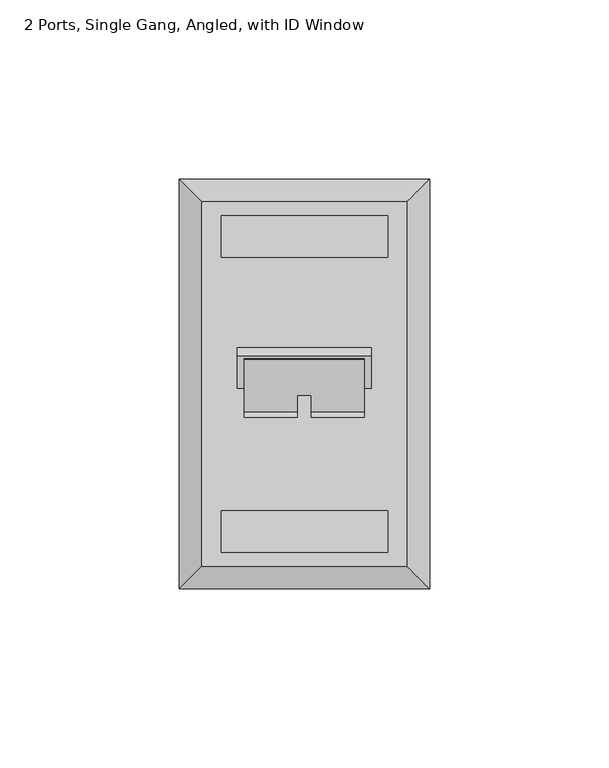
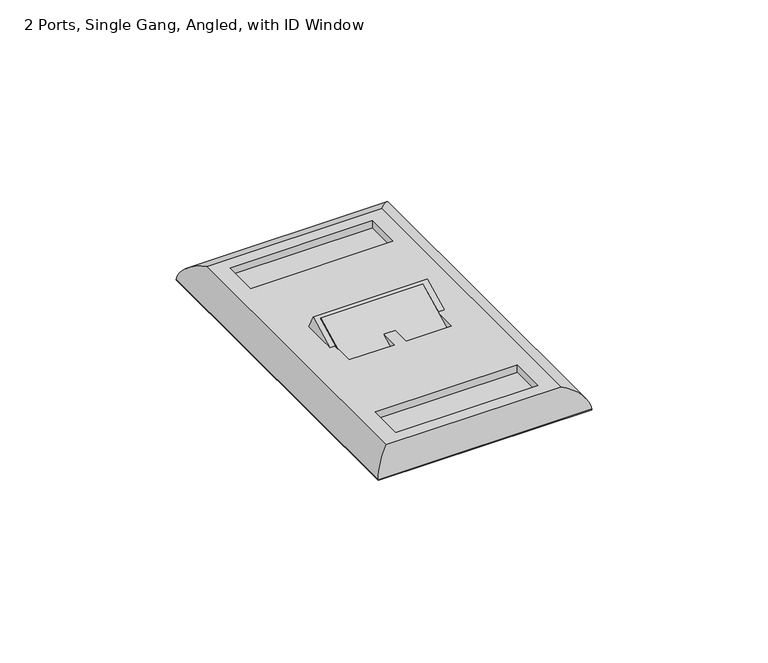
"""IFC4 building model written with IfcOpenShell, lengths in millimetres: electric appliance geometry, Data_Device-Work_Area-Leviton-QuickPort-Wallplate : 2 Ports, Single Gang, Angled, with ID Window."""

from ifc_helpers import new_model, si_unit, frame, origin, origin_with_axes, place, context, project, spatial, polyline, ellipse_curve, outline, extrude, faceted_brep, source, transform, mapped, element, save
from ifc_brep_helpers import plane_surface, cylinder_surface, advanced_brep


def electric_appliance_2_ports_single_gang_angled_with_id_window_8e567249(model_context):
    return source(origin(), model_context, "Body", "SolidModel", [
        extrude(outline(polyline([(0.0, -16.5099999), (0.0, 0.0), (33.401, 0.0), (33.401, -16.5099999), (0.0, -16.5099999)])), frame((-6.3246, 3.3027569, -2.12579), z_axis=(0.0, -0.45585538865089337, 0.8900538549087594), x_axis=(-1.0, 0.0, 0.0)), (0.0, 0.0, 1.0), 6.35),
        advanced_brep(
        [(5.5499, -42.6085, 6.35), (5.5499, 58.9915, 6.35), (-51.6001, 58.9915, 6.35), (-51.6001, -42.6085, 6.35), (-46.2661, 55.1815, 6.35), (0.2159, 55.1815, 6.35), (0.2159, 43.4975, 6.35), (-46.2661, 43.4975, 6.35), (0.2159, -27.1145, 6.35), (0.2159, -38.7985, 6.35), (-46.2661, -38.7985, 6.35), (-46.2661, -27.1145, 6.35), (-6.3246, 17.5111842, 6.35), (-6.3246, -1.0382552, 6.35), (-21.0566, -1.0382552, 6.35), (-21.0566, 17.5111842, 6.35), (-24.9936, 17.5111842, 6.35), (-24.9936, -1.0382552, 6.35), (-39.7256, -1.0382552, 6.35), (-39.7256, 17.5111842, 6.35), (11.8999, 65.3415, 0.0), (11.8999, -48.9585, 0.0), (-57.9501, -48.9585, 0.0), (-57.9501, 65.3415, 0.0), (-6.3246, 2.2139994, 0.0), (-6.3246, 20.7634387, 0.0), (-21.0566, 20.7634387, 0.0), (-21.0566, 2.2139994, 0.0), (-24.9936, 2.2139994, 0.0), (-24.9936, 20.7634387, 0.0), (-39.7256, 20.7634387, 0.0), (-39.7256, 2.2139994, 0.0), (-57.9501, 65.3415, 0.254), (11.8999, 65.3415, 0.254), (-57.9501, -48.9585, 0.254), (11.8999, -48.9585, 0.254), (0.2159, 55.1815, 3.81), (-46.2661, 55.1815, 3.81), (-46.2661, 43.4975, 3.81), (0.2159, 43.4975, 3.81), (0.2159, -38.7985, 3.81), (0.2159, -27.1145, 3.81), (-46.2661, -27.1145, 3.81), (-46.2661, -38.7985, 3.81)],
        [
            (0, 1),
            (1, 2),
            (2, 3),
            (3, 0),
            (4, 5),
            (5, 6),
            (6, 7),
            (7, 4),
            (8, 9),
            (9, 10),
            (10, 11),
            (11, 8),
            (12, 13),
            (13, 14),
            (14, 15),
            (15, 12),
            (16, 17),
            (17, 18),
            (18, 19),
            (19, 16),
            (20, 21),
            (21, 22),
            (22, 23),
            (23, 20),
            (24, 25),
            (25, 26),
            (26, 27),
            (27, 24),
            (28, 29),
            (29, 30),
            (30, 31),
            (31, 28),
            (23, 32),
            (32, 33),
            (33, 20),
            (22, 34),
            (34, 32),
            (21, 35),
            (35, 34),
            (33, 35),
            (36, 37),
            (37, 38),
            (38, 39),
            (39, 36),
            (40, 41),
            (41, 42),
            (42, 43),
            (43, 40),
            (36, 5),
            (4, 37),
            (7, 38),
            (6, 39),
            (40, 9),
            (8, 41),
            (11, 42),
            (10, 43),
            (12, 25),
            (24, 13),
            (27, 14),
            (26, 15),
            (16, 29),
            (28, 17),
            (31, 18),
            (30, 19),
            (0, 35, ellipse_curve(frame((5.5499, -42.6085, -0.0052917), z_axis=(0.7071067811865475, 0.7071067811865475, 0.0), x_axis=(0.7071067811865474, -0.7071067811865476, 0.0)), 8.9877397, 6.3552917)),
            (33, 1, ellipse_curve(frame((5.5499, 58.9915, -0.0052917), z_axis=(0.7071067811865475, -0.7071067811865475, 0.0), x_axis=(-0.7071067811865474, -0.7071067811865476, 0.0)), 8.9877397, 6.3552917)),
            (3, 34, ellipse_curve(frame((-51.6001, -42.6085, -0.0052917), z_axis=(0.7071067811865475, -0.7071067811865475, 0.0), x_axis=(-0.7071067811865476, -0.7071067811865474, 0.0)), 8.9877397, 6.3552917)),
            (2, 32, ellipse_curve(frame((-51.6001, 58.9915, -0.0052917), z_axis=(-0.7071067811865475, -0.7071067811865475, 0.0), x_axis=(-0.7071067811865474, 0.7071067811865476, 0.0)), 8.9877397, 6.3552917)),
        ],
        [
            plane_surface(frame((-57.9501, 65.3415, 6.35), z_axis=(0.0, 0.0, 1.0), x_axis=(-1.0, 0.0, 0.0))),
            plane_surface(frame((-57.9501, 65.3415, 0.0), z_axis=(0.0, 0.0, -1.0), x_axis=(1.0, 0.0, 0.0))),
            plane_surface(frame((11.8999, 65.3415, 6.35), z_axis=(0.0, 1.0, 0.0), x_axis=(0.0, 0.0, -1.0))),
            plane_surface(frame((-57.9501, 65.3415, 6.35), z_axis=(-1.0, 0.0, 0.0), x_axis=(0.0, 0.0, -1.0))),
            plane_surface(frame((-57.9501, -48.9585, 6.35), z_axis=(0.0, -1.0, 0.0), x_axis=(0.0, 0.0, -1.0))),
            plane_surface(frame((11.8999, -48.9585, 6.35), z_axis=(1.0, 0.0, 0.0), x_axis=(0.0, 0.0, -1.0))),
            plane_surface(frame((-46.2661, 55.1815, 3.81), z_axis=(0.0, 0.0, 1.0), x_axis=(1.0, 0.0, 0.0))),
            plane_surface(frame((0.2159, 55.1815, 6.35), z_axis=(0.0, -1.0, 0.0), x_axis=(0.0, 0.0, -1.0))),
            plane_surface(frame((-46.2661, 55.1815, 6.35), z_axis=(1.0, 0.0, 0.0), x_axis=(0.0, 0.0, -1.0))),
            plane_surface(frame((-46.2661, 43.4975, 6.35), z_axis=(0.0, 1.0, 0.0), x_axis=(0.0, 0.0, -1.0))),
            plane_surface(frame((0.2159, 43.4975, 6.35), z_axis=(-1.0, 0.0, 0.0), x_axis=(0.0, 0.0, -1.0))),
            plane_surface(frame((0.2159, -38.7985, 6.35), z_axis=(-1.0, 0.0, 0.0), x_axis=(0.0, 0.0, -1.0))),
            plane_surface(frame((0.2159, -27.1145, 6.35), z_axis=(0.0, -1.0, 0.0), x_axis=(0.0, 0.0, -1.0))),
            plane_surface(frame((-46.2661, -27.1145, 6.35), z_axis=(1.0, 0.0, 0.0), x_axis=(0.0, 0.0, -1.0))),
            plane_surface(frame((-46.2661, -38.7985, 6.35), z_axis=(0.0, 1.0, 0.0), x_axis=(0.0, 0.0, -1.0))),
            plane_surface(frame((-6.3246, 22.0501005, -2.5121963), z_axis=(-1.0, 0.0, 0.0), x_axis=(0.0, -0.4558553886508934, 0.8900538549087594))),
            plane_surface(frame((-6.3246, 7.3553113, -10.0383688), z_axis=(0.0, 0.8900538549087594, 0.45585538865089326), x_axis=(0.0, -0.45585538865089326, 0.8900538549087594))),
            plane_surface(frame((-21.0566, 7.3553113, -10.0383688), z_axis=(1.0, 0.0, 0.0), x_axis=(0.0, -0.4558553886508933, 0.8900538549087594))),
            plane_surface(frame((-21.0566, 22.0501005, -2.5121963), z_axis=(0.0, -0.8900538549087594, -0.4558553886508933), x_axis=(0.0, -0.4558553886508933, 0.8900538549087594))),
            plane_surface(frame((-24.9936, 22.0501005, -2.5121963), z_axis=(-1.0, 0.0, 0.0), x_axis=(0.0, -0.4558553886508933, 0.8900538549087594))),
            plane_surface(frame((-24.9936, 7.3553113, -10.0383688), z_axis=(0.0, 0.8900538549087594, 0.4558553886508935), x_axis=(0.0, -0.4558553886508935, 0.8900538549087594))),
            plane_surface(frame((-39.7256, 7.3553113, -10.0383688), z_axis=(1.0000000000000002, 0.0, 0.0), x_axis=(0.0, -0.4558553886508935, 0.8900538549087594))),
            plane_surface(frame((-39.7256, 22.0501005, -2.5121963), z_axis=(0.0, -0.8900538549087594, -0.4558553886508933), x_axis=(0.0, -0.4558553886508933, 0.8900538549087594))),
            cylinder_surface(frame((5.5499, 65.3415, -0.0052917), z_axis=(0.0, -1.0, 0.0), x_axis=(1.0, 0.0, 0.0)), 6.3552917),
            cylinder_surface(frame((11.8999, -42.6085, -0.0052917), z_axis=(-1.0, 0.0, 0.0), x_axis=(0.0, -1.0, 0.0)), 6.3552917),
            cylinder_surface(frame((-51.6001, -48.9585, -0.0052917), z_axis=(0.0, 1.0, 0.0), x_axis=(-1.0, 0.0, 0.0)), 6.3552917),
            cylinder_surface(frame((-57.9501, 58.9915, -0.0052917), z_axis=(1.0, 0.0, 0.0), x_axis=(0.0, 1.0, 0.0)), 6.3552917),
        ],
        [
            (0, [[1, 2, 3, 4], [5, 6, 7, 8], [9, 10, 11, 12], [13, 14, 15, 16], [17, 18, 19, 20]]),
            (1, [[21, 22, 23, 24], [25, 26, 27, 28], [29, 30, 31, 32]]),
            (2, [[-24, 33, 34, 35]]),
            (3, [[-23, 36, 37, -33]]),
            (4, [[-22, 38, 39, -36]]),
            (5, [[-21, -35, 40, -38]]),
            (6, [[41, 42, 43, 44]]),
            (6, [[45, 46, 47, 48]]),
            (7, [[-41, 49, -5, 50]]),
            (8, [[-42, -50, -8, 51]]),
            (9, [[-43, -51, -7, 52]]),
            (10, [[-44, -52, -6, -49]]),
            (11, [[-45, 53, -9, 54]]),
            (12, [[-46, -54, -12, 55]]),
            (13, [[-47, -55, -11, 56]]),
            (14, [[-48, -56, -10, -53]]),
            (15, [[57, -25, 58, -13]]),
            (16, [[-58, -28, 59, -14]]),
            (17, [[-59, -27, 60, -15]]),
            (18, [[-57, -16, -60, -26]]),
            (19, [[61, -29, 62, -17]]),
            (20, [[-62, -32, 63, -18]]),
            (21, [[-63, -31, 64, -19]]),
            (22, [[-61, -20, -64, -30]]),
            (23, [[65, -40, 66, -1]]),
            (24, [[-65, -4, 67, -39]]),
            (25, [[-67, -3, 68, -37]]),
            (26, [[-66, -34, -68, -2]]),
        ],
    ),
        faceted_brep([(-4.3561, 5.9218102, 6.35), (-4.3561, 18.6437374, 6.35), (-4.3561, 16.0000684, 11.5117419), (-41.6941, 5.9218102, 6.35), (-41.6941, 16.0000684, 11.5117419), (-41.6941, 18.6437374, 6.35), (-6.3246, 15.1028643, 11.0522244), (-6.3246, 17.5111842, 6.35), (-6.3246, 5.9218102, 6.35), (-21.0566, 17.5111842, 6.35), (-21.0566, 15.1028643, 11.0522244), (-21.0566, 5.9218102, 6.35), (-24.9936, 15.1028643, 11.0522244), (-24.9936, 17.5111842, 6.35), (-24.9936, 5.9218102, 6.35), (-39.7256, 17.5111842, 6.35), (-39.7256, 15.1028643, 11.0522244), (-39.7256, 5.9218102, 6.35)], [[[0, 1, 2]], [[3, 4, 5]], [[6, 7, 8]], [[9, 10, 11]], [[7, 6, 10, 9]], [[12, 13, 14]], [[15, 16, 17]], [[13, 12, 16, 15]], [[0, 2, 4, 3, 17, 16, 12, 14, 11, 10, 6, 8]], [[1, 0, 8, 7, 9, 11, 14, 13, 15, 17, 3, 5]], [[2, 1, 5, 4]]]),
        extrude(outline(polyline([(11.6459, 65.0875), (11.6459, -48.7045), (-57.6961, -48.7045), (-57.6961, 65.0875), (11.6459, 65.0875)])), origin_with_axes(), (0.0, 0.0, 1.0), 0.254),
    ])


if __name__ == "__main__":
    model = new_model("IFC4")
    model_context = context("Model", 3, world=origin())
    ifc_project = project(units=[si_unit("LENGTHUNIT", "METRE", prefix="MILLI")], contexts=[model_context])
    site = spatial("IfcSite", under=ifc_project)
    building = spatial("IfcBuilding", under=site)
    placement = place(None, origin())
    electric_appliance_2_ports_single_gang_angled_with_id_window_shape = electric_appliance_2_ports_single_gang_angled_with_id_window_8e567249(model_context)
    element("IfcElectricAppliance", 1, ObjectType="Data_Device-Work_Area-Leviton-QuickPort-Wallplate : 2 Ports, Single Gang, Angled, with ID Window", at=placement, inside=building, context=model_context, shape_type="MappedRepresentation", body=[
        mapped(electric_appliance_2_ports_single_gang_angled_with_id_window_shape, transform((0.0, 0.0, 0.0), x_axis=(1.0, 0.0, 0.0), y_axis=(0.0, 1.0, 0.0), z_axis=(0.0, 0.0, 1.0))),
    ])
    save(model, "model.ifc")
